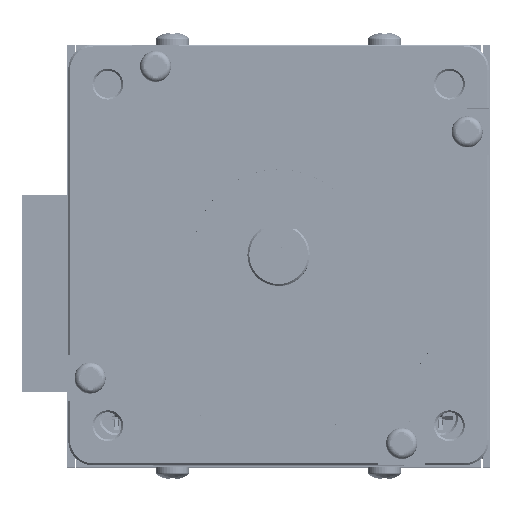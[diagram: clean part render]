
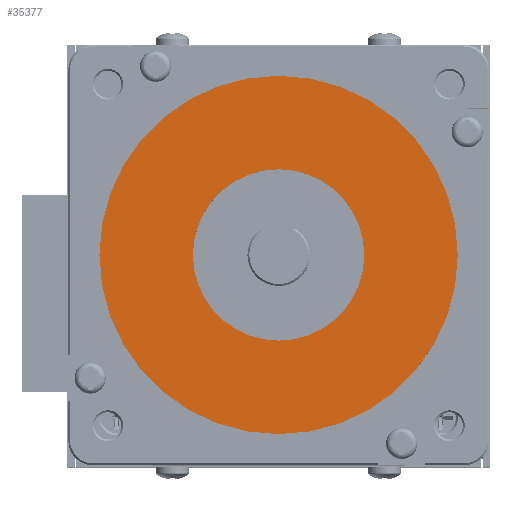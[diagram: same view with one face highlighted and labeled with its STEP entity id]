
A CAD part, top view. The second image highlights one B-rep face of the part: STEP entity #35377.
In plain terms, the highlighted planar face has unit normal (0, 0, 1).
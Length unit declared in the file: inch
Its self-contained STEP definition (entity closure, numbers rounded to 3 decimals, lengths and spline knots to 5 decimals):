
#6068 = ORIENTED_EDGE ( 'NONE', *, *, #164570, .T. ) ;
#8775 = CARTESIAN_POINT ( 'NONE',  ( 0., 0., 0.06 ) ) ;
#13636 = EDGE_LOOP ( 'NONE', ( #139695, #6068 ) ) ;
#16179 = CARTESIAN_POINT ( 'NONE',  ( 1.4375, 0., 0.06 ) ) ;
#19554 = CIRCLE ( 'NONE', #43425, 1.4375 ) ;
#22540 = VERTEX_POINT ( 'NONE', #95671 ) ;
#22761 = CARTESIAN_POINT ( 'NONE',  ( 0., 0., 0.06 ) ) ;
#23416 = DIRECTION ( 'NONE',  ( 1., 0., 0. ) ) ;
#27742 = VERTEX_POINT ( 'NONE', #16179 ) ;
#29928 = FACE_OUTER_BOUND ( 'NONE', #13636, .T. ) ;
#35377 = ADVANCED_FACE ( 'NONE', ( #29928, #142062 ), #154044, .T. ) ;
#37576 = DIRECTION ( 'NONE',  ( 1., 0., 0. ) ) ;
#39086 = EDGE_CURVE ( 'NONE', #97776, #22540, #175236, .T. ) ;
#43425 = AXIS2_PLACEMENT_3D ( 'NONE', #68944, #171409, #83669 ) ;
#47188 = EDGE_CURVE ( 'NONE', #184240, #27742, #148573, .T. ) ;
#61305 = DIRECTION ( 'NONE',  ( 0., 0., 1. ) ) ;
#67844 = CARTESIAN_POINT ( 'NONE',  ( -1.4375, 0., 0.06 ) ) ;
#68944 = CARTESIAN_POINT ( 'NONE',  ( 0., 0., 0.06 ) ) ;
#70116 = AXIS2_PLACEMENT_3D ( 'NONE', #22761, #125092, #37576 ) ;
#82039 = EDGE_LOOP ( 'NONE', ( #121159, #122087 ) ) ;
#83362 = CARTESIAN_POINT ( 'NONE',  ( 0., 0., 0.06 ) ) ;
#83669 = DIRECTION ( 'NONE',  ( 1., 0., 0. ) ) ;
#93446 = AXIS2_PLACEMENT_3D ( 'NONE', #148952, #61305, #163781 ) ;
#95671 = CARTESIAN_POINT ( 'NONE',  ( 0.6875, 0., 0.06 ) ) ;
#97776 = VERTEX_POINT ( 'NONE', #116476 ) ;
#98126 = DIRECTION ( 'NONE',  ( 1., 0., 0. ) ) ;
#111036 = DIRECTION ( 'NONE',  ( 0., 0., 1. ) ) ;
#116476 = CARTESIAN_POINT ( 'NONE',  ( -0.6875, 0., 0.06 ) ) ;
#121072 = AXIS2_PLACEMENT_3D ( 'NONE', #8775, #111036, #23416 ) ;
#121159 = ORIENTED_EDGE ( 'NONE', *, *, #39086, .F. ) ;
#122087 = ORIENTED_EDGE ( 'NONE', *, *, #185379, .F. ) ;
#125092 = DIRECTION ( 'NONE',  ( 0., 0., 1. ) ) ;
#139695 = ORIENTED_EDGE ( 'NONE', *, *, #47188, .T. ) ;
#142062 = FACE_BOUND ( 'NONE', #82039, .T. ) ;
#148573 = CIRCLE ( 'NONE', #93446, 1.4375 ) ;
#148952 = CARTESIAN_POINT ( 'NONE',  ( 0., 0., 0.06 ) ) ;
#154044 = PLANE ( 'NONE',  #70116 ) ;
#163781 = DIRECTION ( 'NONE',  ( 1., 0., 0. ) ) ;
#164570 = EDGE_CURVE ( 'NONE', #27742, #184240, #19554, .T. ) ;
#171409 = DIRECTION ( 'NONE',  ( 0., 0., 1. ) ) ;
#172026 = CIRCLE ( 'NONE', #184421, 0.6875 ) ;
#175236 = CIRCLE ( 'NONE', #121072, 0.6875 ) ;
#184240 = VERTEX_POINT ( 'NONE', #67844 ) ;
#184421 = AXIS2_PLACEMENT_3D ( 'NONE', #83362, #185866, #98126 ) ;
#185379 = EDGE_CURVE ( 'NONE', #22540, #97776, #172026, .T. ) ;
#185866 = DIRECTION ( 'NONE',  ( 0., 0., 1. ) ) ;
